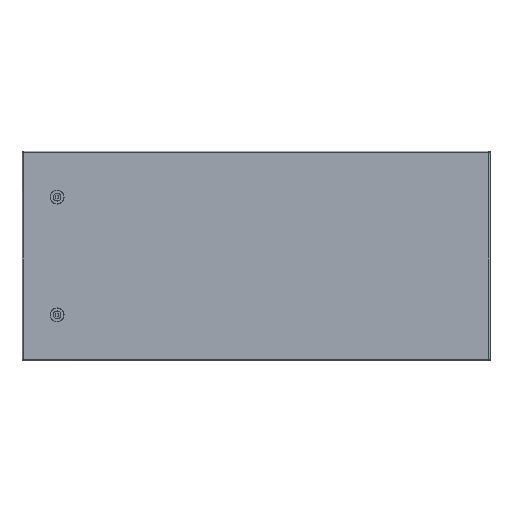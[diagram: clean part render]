
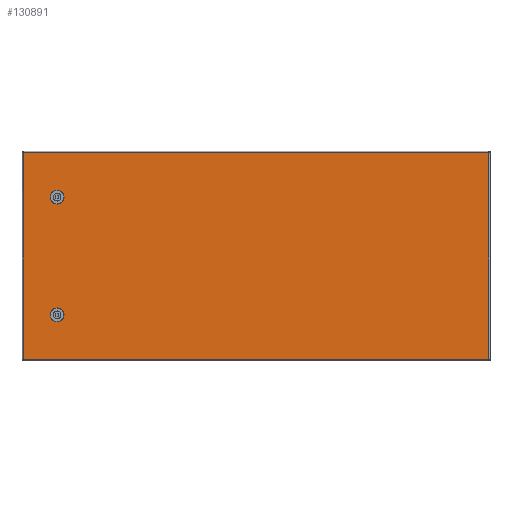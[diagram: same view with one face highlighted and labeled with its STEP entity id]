
A CAD part, top view. The second image highlights one B-rep face of the part: STEP entity #130891.
In plain terms, the highlighted planar face has unit normal (0, 0, 1).
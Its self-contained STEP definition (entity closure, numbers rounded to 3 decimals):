
#130036=CARTESIAN_POINT(' ',(2.8,0.8,0.));
#130041=DIRECTION(' ',(1.,0.,0.));
#130046=VECTOR(' ',#130041,1.);
#130051=LINE('',#130036,#130046);
#130056=CARTESIAN_POINT(' ',(2.8,0.8,0.));
#130057=VERTEX_POINT(' ',#130056);
#130061=CARTESIAN_POINT(' ',(991.2,0.8,0.));
#130062=VERTEX_POINT(' ',#130061);
#130066=EDGE_CURVE(' ',#130057,#130062,#130051,.T.);
#130751=DIRECTION(' ',(-0.,-0.,1.));
#130756=CARTESIAN_POINT(' ',(991.2,0.8,0.));
#130761=DIRECTION(' ',(0.,1.,0.));
#130766=AXIS2_PLACEMENT_3D(' ',#130756,#130751,#130761);
#130771=PLANE('NONE',#130766);
#130776=ORIENTED_EDGE(' ',*,*,#130066,.T.);
#130781=CARTESIAN_POINT(' ',(991.2,440.2,0.));
#130786=DIRECTION(' ',(0.,-1.,0.));
#130791=VECTOR(' ',#130786,1.);
#130796=LINE('',#130781,#130791);
#130801=CARTESIAN_POINT(' ',(991.2,440.2,0.));
#130802=VERTEX_POINT(' ',#130801);
#130806=EDGE_CURVE(' ',#130802,#130062,#130796,.T.);
#130811=ORIENTED_EDGE(' ',*,*,#130806,.F.);
#130816=CARTESIAN_POINT(' ',(991.2,440.2,0.));
#130821=DIRECTION(' ',(-1.,0.,0.));
#130826=VECTOR(' ',#130821,1.);
#130831=LINE('',#130816,#130826);
#130836=CARTESIAN_POINT(' ',(2.8,440.2,0.));
#130837=VERTEX_POINT(' ',#130836);
#130841=EDGE_CURVE(' ',#130802,#130837,#130831,.T.);
#130846=ORIENTED_EDGE(' ',*,*,#130841,.T.);
#130851=CARTESIAN_POINT(' ',(2.8,440.2,0.));
#130856=DIRECTION(' ',(0.,-1.,0.));
#130861=VECTOR(' ',#130856,1.);
#130866=LINE('',#130851,#130861);
#130871=EDGE_CURVE(' ',#130837,#130057,#130866,.T.);
#130876=ORIENTED_EDGE(' ',*,*,#130871,.T.);
#130881=EDGE_LOOP(' ',(#130776,#130811,#130846,#130876));
#130886=FACE_OUTER_BOUND(' ',#130881,.T.);
#130891=ADVANCED_FACE('NONE',(#130886),#130771,.T.);
